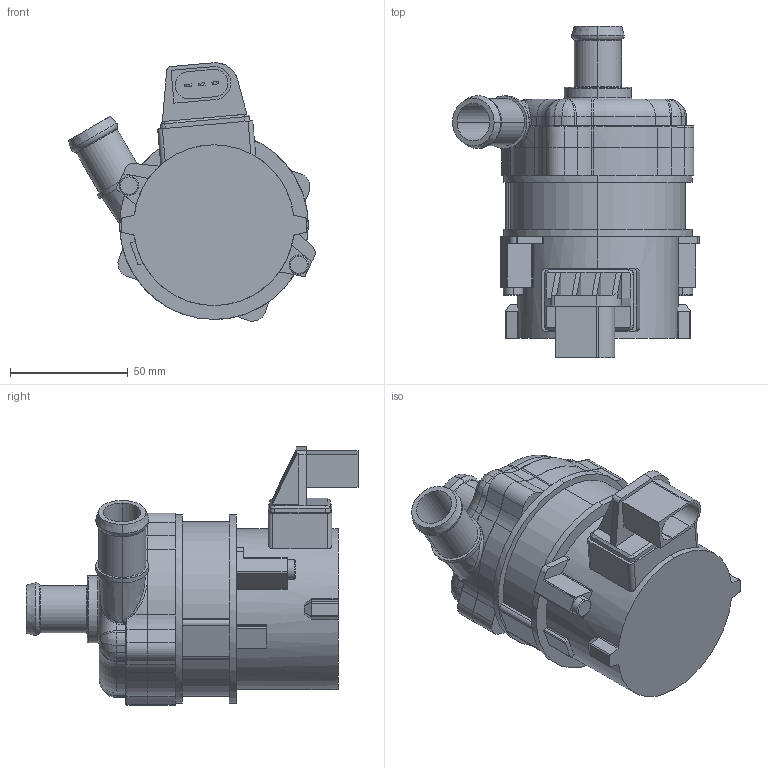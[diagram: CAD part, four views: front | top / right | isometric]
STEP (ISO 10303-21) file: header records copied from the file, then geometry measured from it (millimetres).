
FILE_DESCRIPTION (( 'STEP AP214' ), '1' );
FILE_NAME ('CWA100-3.STEP', '2020-12-29T14:57:12', ( '' ), ( '' ), 'STEP 2.0', 'Tecomotive 2020', '' );
FILE_SCHEMA (( 'AUTOMOTIVE_DESIGN' ));
Length unit declared in the file: millimetre
Products named in the file (1): CWA100-3
Bounding box: 104.7 x 140.9 x 109.63 mm (x, y, z)
Volume: 452695.2 mm3; surface area: 51970.8 mm2
Topology: 1 solids, 1 shells, 417 faces, 1070 edges, 664 vertices
Faces by surface type: cylinder 174, plane 159, torus 55, bspline 18, cone 11
Entity records: 16923 total; most frequent: CARTESIAN_POINT 3837, DIRECTION 2267, ORIENTED_EDGE 2124, EDGE_CURVE 1062, AXIS2_PLACEMENT_3D 870, VERTEX_POINT 664, VECTOR 527, LINE 527
